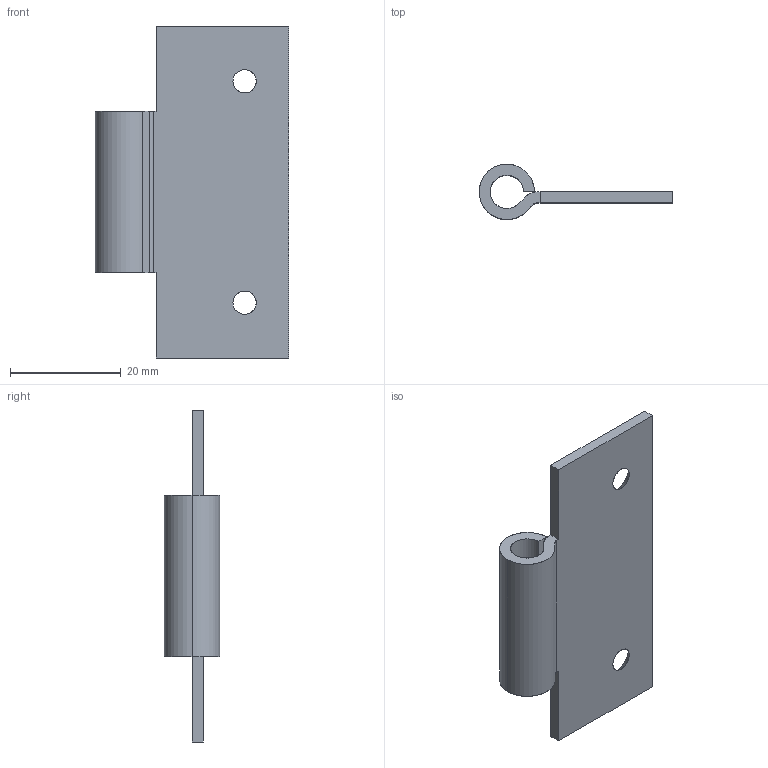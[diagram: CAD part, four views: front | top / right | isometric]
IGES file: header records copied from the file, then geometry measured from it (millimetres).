
Start section: SolidWorks IGES file using analytic representation for surfaces
Global section: file name: Z:\Mes documents\ATAO iges\Gamme CC\CC 485\485 020 010.IGS; native system: SolidWorks 2013; preprocessor: SolidWorks 2013; author: cbrechard; date: 151124.181516; units: millimetre
Bounding box: 35 x 9.99 x 60 mm (x, y, z)
Surface area: 4799.9 mm2 (no closed solid volume)
Topology: 0 solids, 0 shells, 22 faces, 372 edges, 372 vertices
Faces by surface type: bspline 12, revolution 10
